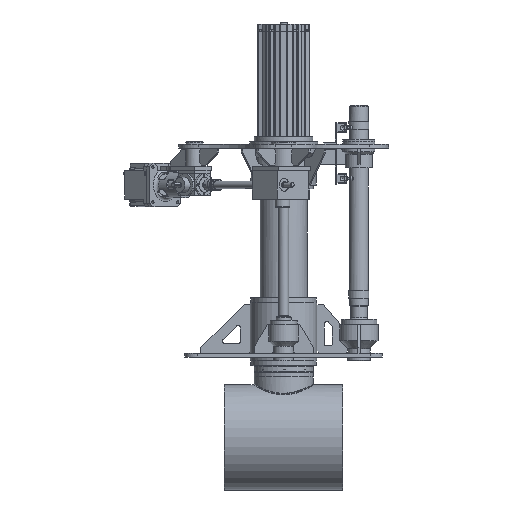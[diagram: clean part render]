
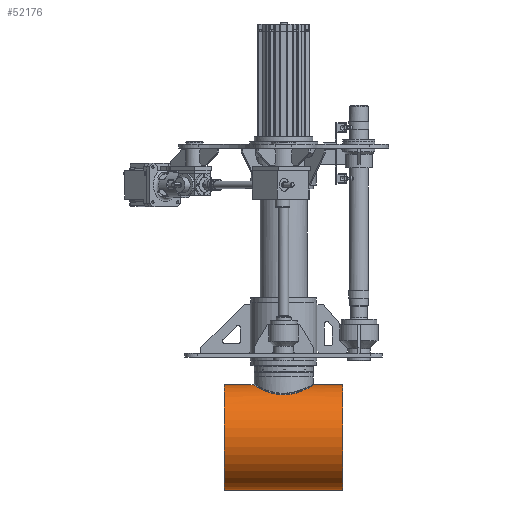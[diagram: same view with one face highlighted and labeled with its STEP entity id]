
A CAD part, front view. The second image highlights one B-rep face of the part: STEP entity #52176.
In plain terms, the highlighted cylindrical face has radius 212.725 mm (diameter 425.45 mm), a full revolution.
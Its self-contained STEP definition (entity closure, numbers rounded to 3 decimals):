
#800=B_SPLINE_CURVE_WITH_KNOTS('',3,(#88733,#88734,#88735,#88736,#88737,
#88738,#88739,#88740,#88741,#88742,#88743,#88744,#88745,#88746,#88747,#88748,
#88749,#88750),.UNSPECIFIED.,.F.,.F.,(4,2,2,2,2,2,2,2,4),(0.,2.411,
4.822,7.233,9.644,12.042,14.439,
16.837,19.234),.UNSPECIFIED.);
#801=B_SPLINE_CURVE_WITH_KNOTS('',3,(#88752,#88753,#88754,#88755,#88756,
#88757,#88758,#88759,#88760,#88761,#88762,#88763,#88764,#88765,#88766,#88767,
#88768,#88769),.UNSPECIFIED.,.F.,.F.,(4,2,2,2,2,2,2,2,4),(19.234,
21.632,24.029,26.427,28.824,31.235,
33.646,36.057,38.468),.UNSPECIFIED.);
#802=B_SPLINE_CURVE_WITH_KNOTS('',3,(#88771,#88772,#88773,#88774,#88775,
#88776,#88777,#88778,#88779,#88780,#88781,#88782,#88783,#88784,#88785,#88786,
#88787,#88788),.UNSPECIFIED.,.F.,.F.,(4,2,2,2,2,2,2,2,4),(38.468,
40.879,43.29,45.701,48.112,50.51,
52.907,55.305,57.702),.UNSPECIFIED.);
#803=B_SPLINE_CURVE_WITH_KNOTS('',3,(#88789,#88790,#88791,#88792,#88793,
#88794,#88795,#88796,#88797,#88798,#88799,#88800,#88801,#88802,#88803,#88804,
#88805,#88806),.UNSPECIFIED.,.F.,.F.,(4,2,2,2,2,2,2,2,4),(57.702,
60.1,62.497,64.895,67.292,69.703,
72.114,74.525,76.936),.UNSPECIFIED.);
#1510=FACE_BOUND('',#8217,.T.);
#4981=FACE_OUTER_BOUND('',#8216,.T.);
#8216=EDGE_LOOP('',(#42437,#42438,#42439,#42440));
#8217=EDGE_LOOP('',(#42441,#42442,#42443,#42444));
#11891=LINE('',#89079,#15812);
#15812=VECTOR('',#69256,212.725);
#18932=CIRCLE('',#56954,212.725);
#18935=CIRCLE('',#56958,212.725);
#23185=VERTEX_POINT('',#88730);
#23186=VERTEX_POINT('',#88732);
#23187=VERTEX_POINT('',#88751);
#23188=VERTEX_POINT('',#88770);
#23193=VERTEX_POINT('',#88986);
#23196=VERTEX_POINT('',#88993);
#29830=EDGE_CURVE('',#23185,#23186,#800,.T.);
#29831=EDGE_CURVE('',#23186,#23187,#801,.T.);
#29832=EDGE_CURVE('',#23187,#23188,#802,.T.);
#29833=EDGE_CURVE('',#23188,#23185,#803,.T.);
#29840=EDGE_CURVE('',#23193,#23193,#18932,.T.);
#29843=EDGE_CURVE('',#23196,#23196,#18935,.T.);
#29852=EDGE_CURVE('',#23193,#23196,#11891,.T.);
#42437=ORIENTED_EDGE('',*,*,#29840,.T.);
#42438=ORIENTED_EDGE('',*,*,#29852,.T.);
#42439=ORIENTED_EDGE('',*,*,#29843,.T.);
#42440=ORIENTED_EDGE('',*,*,#29852,.F.);
#42441=ORIENTED_EDGE('',*,*,#29832,.F.);
#42442=ORIENTED_EDGE('',*,*,#29831,.F.);
#42443=ORIENTED_EDGE('',*,*,#29830,.F.);
#42444=ORIENTED_EDGE('',*,*,#29833,.F.);
#47202=CYLINDRICAL_SURFACE('',#56962,212.725);
#52176=ADVANCED_FACE('',(#4981,#1510),#47202,.T.);
#56954=AXIS2_PLACEMENT_3D('',#88987,#69235,#69236);
#56958=AXIS2_PLACEMENT_3D('',#88994,#69243,#69244);
#56962=AXIS2_PLACEMENT_3D('',#89078,#69254,#69255);
#69235=DIRECTION('center_axis',(-1.,0.,
0.));
#69236=DIRECTION('ref_axis',(0.,0.,
1.));
#69243=DIRECTION('center_axis',(1.,0.,
0.));
#69244=DIRECTION('ref_axis',(0.,0.,
1.));
#69254=DIRECTION('center_axis',(1.,0.,
0.));
#69255=DIRECTION('ref_axis',(0.,0.,
1.));
#69256=DIRECTION('',(-1.,0.,0.));
#88730=CARTESIAN_POINT('',(-0.049,124.,-152.153));
#88732=CARTESIAN_POINT('',(-124.,-0.049,-112.275));
#88733=CARTESIAN_POINT('Ctrl Pts',(-0.049,124.,
-152.153));
#88734=CARTESIAN_POINT('Ctrl Pts',(-8.086,123.997,-152.153));
#88735=CARTESIAN_POINT('Ctrl Pts',(-16.303,123.2,-151.576));
#88736=CARTESIAN_POINT('Ctrl Pts',(-32.489,119.953,-149.318));
#88737=CARTESIAN_POINT('Ctrl Pts',(-40.459,117.503,-147.643));
#88738=CARTESIAN_POINT('Ctrl Pts',(-55.639,111.122,-143.58));
#88739=CARTESIAN_POINT('Ctrl Pts',(-62.865,107.186,-141.195));
#88740=CARTESIAN_POINT('Ctrl Pts',(-76.198,98.156,-136.22));
#88741=CARTESIAN_POINT('Ctrl Pts',(-82.305,93.061,-133.635));
#88742=CARTESIAN_POINT('Ctrl Pts',(-93.096,82.262,-128.751));
#88743=CARTESIAN_POINT('Ctrl Pts',(-98.181,76.166,-126.268));
#88744=CARTESIAN_POINT('Ctrl Pts',(-107.212,62.822,-121.653));
#88745=CARTESIAN_POINT('Ctrl Pts',(-111.157,55.573,-119.525));
#88746=CARTESIAN_POINT('Ctrl Pts',(-117.544,40.343,-115.998));
#88747=CARTESIAN_POINT('Ctrl Pts',(-119.991,32.347,-114.598));
#88748=CARTESIAN_POINT('Ctrl Pts',(-123.221,16.147,-112.736));
#88749=CARTESIAN_POINT('Ctrl Pts',(-124.003,7.943,-112.275));
#88750=CARTESIAN_POINT('Ctrl Pts',(-124.,-0.049,
-112.275));
#88751=CARTESIAN_POINT('',(0.049,-124.,-152.153));
#88752=CARTESIAN_POINT('Ctrl Pts',(-124.,-0.049,-112.275));
#88753=CARTESIAN_POINT('Ctrl Pts',(-123.997,-8.041,-112.275));
#88754=CARTESIAN_POINT('Ctrl Pts',(-123.209,-16.244,
-112.736));
#88755=CARTESIAN_POINT('Ctrl Pts',(-119.966,-32.442,
-114.598));
#88756=CARTESIAN_POINT('Ctrl Pts',(-117.512,-40.436,
-115.998));
#88757=CARTESIAN_POINT('Ctrl Pts',(-111.113,-55.66,
-119.525));
#88758=CARTESIAN_POINT('Ctrl Pts',(-107.162,-62.907,
-121.653));
#88759=CARTESIAN_POINT('Ctrl Pts',(-98.121,-76.244,-126.268));
#88760=CARTESIAN_POINT('Ctrl Pts',(-93.031,-82.336,
-128.751));
#88761=CARTESIAN_POINT('Ctrl Pts',(-82.232,-93.126,
-133.635));
#88762=CARTESIAN_POINT('Ctrl Pts',(-76.12,-98.217,
-136.22));
#88763=CARTESIAN_POINT('Ctrl Pts',(-62.781,-107.235,
-141.195));
#88764=CARTESIAN_POINT('Ctrl Pts',(-55.552,-111.166,
-143.58));
#88765=CARTESIAN_POINT('Ctrl Pts',(-40.366,-117.535,
-147.643));
#88766=CARTESIAN_POINT('Ctrl Pts',(-32.394,-119.978,
-149.318));
#88767=CARTESIAN_POINT('Ctrl Pts',(-16.205,-123.213,-151.576));
#88768=CARTESIAN_POINT('Ctrl Pts',(-7.988,-124.003,
-152.153));
#88769=CARTESIAN_POINT('Ctrl Pts',(0.049,-124.,
-152.153));
#88770=CARTESIAN_POINT('',(124.,0.049,-112.275));
#88771=CARTESIAN_POINT('Ctrl Pts',(0.049,-124.,
-152.153));
#88772=CARTESIAN_POINT('Ctrl Pts',(8.086,-123.997,-152.153));
#88773=CARTESIAN_POINT('Ctrl Pts',(16.303,-123.2,-151.576));
#88774=CARTESIAN_POINT('Ctrl Pts',(32.489,-119.953,-149.318));
#88775=CARTESIAN_POINT('Ctrl Pts',(40.459,-117.503,-147.643));
#88776=CARTESIAN_POINT('Ctrl Pts',(55.639,-111.122,-143.58));
#88777=CARTESIAN_POINT('Ctrl Pts',(62.865,-107.186,-141.195));
#88778=CARTESIAN_POINT('Ctrl Pts',(76.198,-98.156,-136.22));
#88779=CARTESIAN_POINT('Ctrl Pts',(82.305,-93.061,-133.635));
#88780=CARTESIAN_POINT('Ctrl Pts',(93.096,-82.262,-128.751));
#88781=CARTESIAN_POINT('Ctrl Pts',(98.181,-76.166,-126.268));
#88782=CARTESIAN_POINT('Ctrl Pts',(107.212,-62.822,-121.653));
#88783=CARTESIAN_POINT('Ctrl Pts',(111.157,-55.573,-119.525));
#88784=CARTESIAN_POINT('Ctrl Pts',(117.544,-40.343,-115.998));
#88785=CARTESIAN_POINT('Ctrl Pts',(119.991,-32.347,-114.598));
#88786=CARTESIAN_POINT('Ctrl Pts',(123.221,-16.147,-112.736));
#88787=CARTESIAN_POINT('Ctrl Pts',(124.003,-7.943,-112.275));
#88788=CARTESIAN_POINT('Ctrl Pts',(124.,0.049,-112.275));
#88789=CARTESIAN_POINT('Ctrl Pts',(124.,0.049,-112.275));
#88790=CARTESIAN_POINT('Ctrl Pts',(123.997,8.041,-112.275));
#88791=CARTESIAN_POINT('Ctrl Pts',(123.209,16.244,-112.736));
#88792=CARTESIAN_POINT('Ctrl Pts',(119.966,32.442,-114.598));
#88793=CARTESIAN_POINT('Ctrl Pts',(117.512,40.436,-115.998));
#88794=CARTESIAN_POINT('Ctrl Pts',(111.113,55.66,-119.525));
#88795=CARTESIAN_POINT('Ctrl Pts',(107.162,62.907,-121.653));
#88796=CARTESIAN_POINT('Ctrl Pts',(98.121,76.244,-126.268));
#88797=CARTESIAN_POINT('Ctrl Pts',(93.031,82.336,-128.751));
#88798=CARTESIAN_POINT('Ctrl Pts',(82.232,93.126,-133.635));
#88799=CARTESIAN_POINT('Ctrl Pts',(76.12,98.217,-136.22));
#88800=CARTESIAN_POINT('Ctrl Pts',(62.781,107.235,-141.195));
#88801=CARTESIAN_POINT('Ctrl Pts',(55.552,111.166,-143.58));
#88802=CARTESIAN_POINT('Ctrl Pts',(40.366,117.535,-147.643));
#88803=CARTESIAN_POINT('Ctrl Pts',(32.394,119.978,-149.318));
#88804=CARTESIAN_POINT('Ctrl Pts',(16.205,123.213,-151.576));
#88805=CARTESIAN_POINT('Ctrl Pts',(7.988,124.003,-152.153));
#88806=CARTESIAN_POINT('Ctrl Pts',(-0.049,124.,-152.153));
#88986=CARTESIAN_POINT('',(240.,0.095,-537.725));
#88987=CARTESIAN_POINT('Origin',(240.,0.095,-325.));
#88993=CARTESIAN_POINT('',(-240.,-0.095,-537.725));
#88994=CARTESIAN_POINT('Origin',(-240.,-0.095,
-325.));
#89078=CARTESIAN_POINT('Origin',(0.,0.,
-325.));
#89079=CARTESIAN_POINT('',(0.,0.,-537.725));
